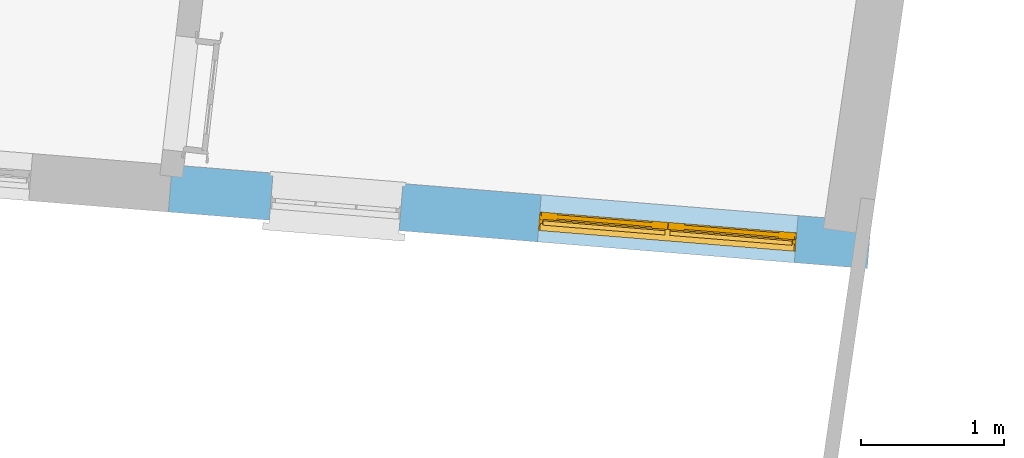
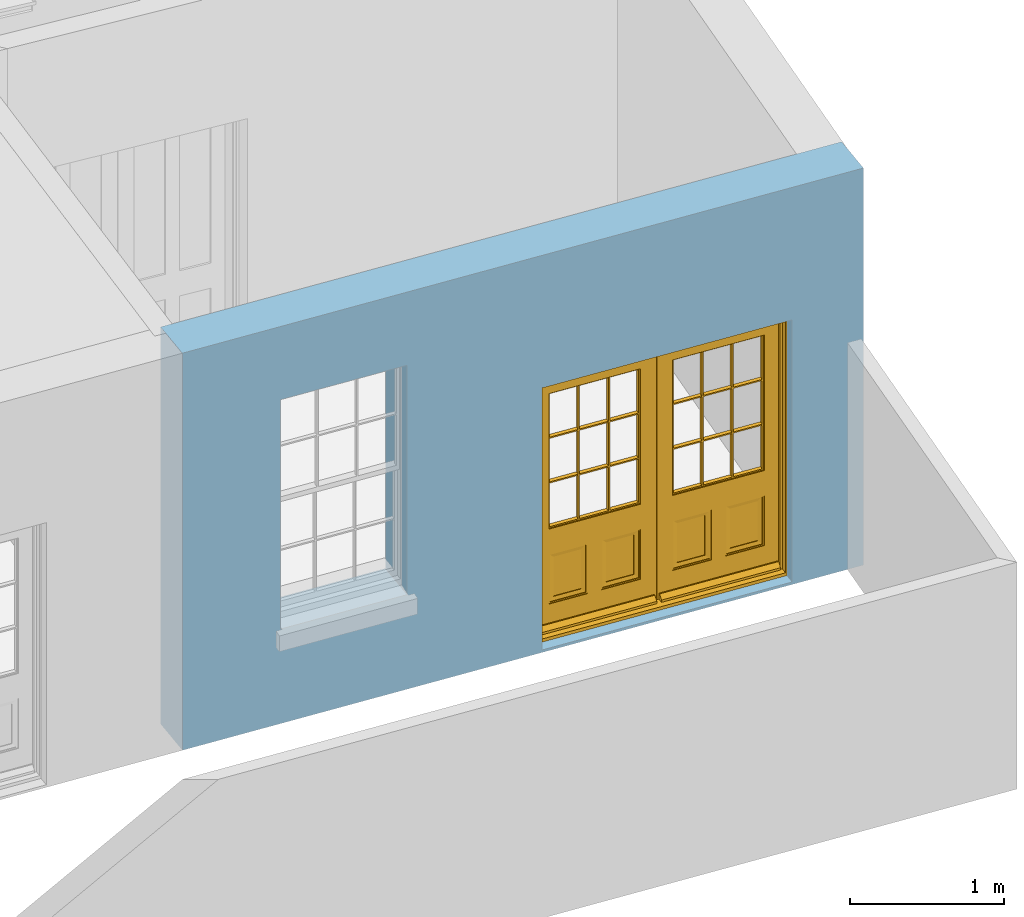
# One storey, part 3 of 8: 1 door, 2 openings, plus 1 element that does not belong to this part.
"""IFC4 building model written with IfcOpenShell, lengths in metres."""

from ifc_helpers import new_model, si_unit, frame, origin, origin_with_axes, place, context, subcontext, project, spatial, polyline, outline, extrude, faceted_brep, source, transform, mapped, material, layer, layer_set, layer_usage, type_object, type_shapes, element, fill, save


model = new_model("IFC4")

# Units and contexts
model_context = context("Model", 3, world=origin_with_axes())
body_context = subcontext(model_context, "Body", "Model", "MODEL_VIEW")
ifc_project = project(units=[si_unit("PLANEANGLEUNIT", "RADIAN"), si_unit("MASSUNIT", "GRAM", prefix="KILO"), si_unit("FORCEUNIT", "NEWTON", prefix="KILO"), si_unit("LENGTHUNIT", "METRE"), si_unit("AREAUNIT", "SQUARE_METRE"), si_unit("VOLUMEUNIT", "CUBIC_METRE")], contexts=[model_context, model_context])

# Sites, building, storey
site_1_placement = place(None, origin_with_axes())
site_1 = spatial("IfcSite", under=ifc_project, at=site_1_placement, Name="Tamar")
site_2_placement = place(site_1_placement, origin_with_axes())
site_2 = spatial("IfcSite", under=site_1, at=site_2_placement, Name="Site plot-31", CompositionType="ELEMENT")
building_placement = place(None, origin_with_axes())
building = spatial("IfcBuilding", under=site_2, at=building_placement, Name="Building plot-31", CompositionType="ELEMENT")
storey_placement = place(None, frame((0.0, 0.0, 25.5), z_axis=(0.0, 0.0, 1.0), x_axis=(1.0, 0.0, 0.0)))
storey = spatial("IfcBuildingStorey", under=building, at=storey_placement, Name="plot-31 0", CompositionType="ELEMENT", Elevation=25.5)

# Wall, openings, door
ifc_material = material(Name="Masonry")
ifc_layer = layer(ifc_material, 0.33, ventilated=False)
ifc_layer_set = layer_set([ifc_layer], Name="exterior_0.08_0.25")
ifc_layer_usage = layer_usage(ifc_layer_set, "AXIS2", "POSITIVE", -0.25)
wall_type = type_object("IfcWallType", Name="exterior_0.08_0.25", PredefinedType="SOLIDWALL", material=ifc_layer_set)
wall_placement = place(storey_placement, frame((295.316844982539, 257.653933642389, 0.0), z_axis=(0.0, 0.0, 1.0), x_axis=(0.99673152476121, -0.0807853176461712, 0.0)))
wall = element("IfcWall", 1, at=wall_placement, inside=storey, type_object=wall_type, material=ifc_layer_usage, Name="exterior", context=body_context, shape_type="SweptSolid", body=[
    extrude(outline(polyline([(-6.79854810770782e-15, 0.080000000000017), (-4.88957373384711e-14, -0.24999999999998), (4.8981688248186, -0.249999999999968), (4.89816882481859, 0.0800000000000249), (-6.79854810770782e-15, 0.080000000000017)])), origin_with_axes(), (0.0, 0.0, 1.0), 3.15),
])
opening_1_placement = place(wall_placement, frame((0.707042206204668, 0.0, 0.75)))
element("IfcOpeningElement", 2, at=opening_1_placement, cuts=wall, Name="My Opening", ObjectType="Opening", context=body_context, shape_type="SweptSolid", body=[
    extrude(outline(polyline([(0.0, -0.269999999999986), (0.909999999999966, -0.270000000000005), (0.909999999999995, 1.09999999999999), (2.87547763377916e-14, 1.10000000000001), (0.0, -0.269999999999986)])), origin_with_axes(), (0.0, 0.0, 1.0), 1.82),
])
opening_2_placement = place(wall_placement, frame((2.58612661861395, 0.0, 0.0199999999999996)))
opening_2 = element("IfcOpeningElement", 3, at=opening_2_placement, cuts=wall, Name="My Opening", ObjectType="Opening", context=body_context, shape_type="SweptSolid", body=[
    extrude(outline(polyline([(0.0, -0.270000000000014), (1.80000000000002, -0.269999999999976), (1.80000000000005, 1.10000000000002), (2.88657986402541e-14, 1.09999999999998), (0.0, -0.270000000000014)])), origin_with_axes(), (0.0, 0.0, 1.0), 2.08),
])
door_type = type_object("IfcDoorType", Name="door_panelled_double", OperationType="SINGLE_SWING_LEFT", PredefinedType="NOTDEFINED")
shared_shape = source(origin(), body_context, "Body", "Brep", [
    faceted_brep([(0.545, 0.195, 0.265), (0.745, 0.195, 0.265), (0.745, 0.2, 0.265), (0.545, 0.2, 0.265), (0.745, 0.2, 0.58), (0.545, 0.2, 0.58), (0.545, 0.195, 0.58), (0.515, 0.19, 0.235), (0.775, 0.19, 0.235), (0.745, 0.195, 0.58), (0.515, 0.19, 0.61), (0.515, 0.185, 0.235), (0.775, 0.185, 0.235), (0.775, 0.19, 0.61), (0.515, 0.185, 0.61), (0.785, 0.185, 0.225), (0.505, 0.185, 0.225), (0.775, 0.185, 0.61), (0.505, 0.185, 0.62), (0.785, 0.185, 0.62), (0.505, 0.18, 0.225), (0.785, 0.18, 0.225), (0.505, 0.18, 0.62), (0.785, 0.18, 0.62), (0.883, 0.18, 0.075), (0.898, 0.18, 0.075), (0.405, 0.18, 0.62), (0.405, 0.18, 0.225), (0.027, 0.18, 0.075), (0.785, 0.18, 0.82), (0.125, 0.18, 0.82), (0.405, 0.185, 0.62), (0.405, 0.185, 0.225), (0.898, 0.18, 2.068), (0.027, 0.17, 0.075), (0.883, 0.17, 0.075), (0.125, 0.18, 0.225), (0.012, 0.18, 0.075), (0.785, 0.19, 0.82), (0.125, 0.19, 0.82), (0.125, 0.18, 0.62), (0.125, 0.185, 0.62), (0.395, 0.185, 0.61), (0.395, 0.185, 0.235), (0.125, 0.185, 0.225), (0.785, 0.18, 1.895), (0.027, 0.14, 0.045), (0.883, 0.14, 0.045), (0.558333, 0.19, 0.83), (0.351667, 0.19, 0.83), (0.125, 0.18, 1.895), (0.125, 0.19, 1.895), (0.785, 0.19, 1.895), (0.012, 0.18, 2.068), (0.135, 0.185, 0.61), (0.395, 0.19, 0.61), (0.395, 0.19, 0.235), (0.135, 0.185, 0.235), (0.027, 0.14, 0.027), (0.883, 0.14, 0.027), (0.568333, 0.19, 0.83), (0.558333, 0.22, 0.83), (0.351667, 0.22, 0.83), (0.341667, 0.19, 0.83), (0.135, 0.19, 1.185), (0.135, 0.19, 1.53), (0.775, 0.19, 1.53), (0.775, 0.19, 1.185), (0.135, 0.19, 0.61), (0.365, 0.195, 0.58), (0.365, 0.195, 0.265), (0.135, 0.19, 0.235), (0.568333, 0.19, 1.175), (0.558333, 0.19, 1.175), (0.775, 0.19, 0.83), (0.558333, 0.22, 1.175), (0.785, 0.22, 0.82), (0.125, 0.22, 0.82), (0.351667, 0.22, 1.175), (0.351667, 0.19, 1.175), (0.341667, 0.19, 1.175), (0.135, 0.19, 0.83), (0.135, 0.19, 1.175), (0.135, 0.22, 1.185), (0.135, 0.22, 1.53), (0.135, 0.19, 1.54), (0.351667, 0.19, 1.885), (0.558333, 0.19, 1.885), (0.775, 0.22, 1.53), (0.775, 0.22, 1.185), (0.775, 0.19, 1.175), (0.775, 0.19, 1.54), (0.165, 0.195, 0.58), (0.365, 0.2, 0.58), (0.365, 0.2, 0.265), (0.165, 0.195, 0.265), (0.568333, 0.22, 0.83), (0.568333, 0.22, 1.175), (0.568333, 0.19, 1.185), (0.558333, 0.19, 1.185), (0.775, 0.22, 0.83), (0.785, 0.23, 0.82), (0.125, 0.23, 0.82), (0.341667, 0.22, 0.83), (0.341667, 0.22, 1.175), (0.351667, 0.19, 1.185), (0.341667, 0.19, 1.185), (0.135, 0.22, 0.83), (0.341667, 0.22, 1.185), (0.125, 0.22, 1.895), (0.341667, 0.22, 1.53), (0.341667, 0.19, 1.53), (0.135, 0.19, 1.885), (0.341667, 0.19, 1.54), (0.341667, 0.19, 1.885), (0.558333, 0.22, 1.885), (0.351667, 0.22, 1.885), (0.568333, 0.19, 1.885), (0.785, 0.22, 1.895), (0.568333, 0.22, 1.185), (0.568333, 0.19, 1.53), (0.568333, 0.22, 1.53), (0.568333, 0.19, 1.54), (0.775, 0.19, 1.885), (0.165, 0.2, 0.58), (0.165, 0.2, 0.265), (0.775, 0.22, 1.175), (0.558333, 0.19, 1.53), (0.351667, 0.22, 1.185), (0.558333, 0.22, 1.185), (0.505, 0.23, 0.62), (0.405, 0.23, 0.62), (0.125, 0.23, 1.895), (0.785, 0.23, 1.895), (0.351667, 0.19, 1.53), (0.135, 0.22, 1.175), (0.135, 0.22, 1.54), (0.341667, 0.22, 1.54), (0.135, 0.22, 1.885), (0.351667, 0.19, 1.54), (0.558333, 0.22, 1.54), (0.558333, 0.19, 1.54), (0.351667, 0.22, 1.54), (0.775, 0.22, 1.54), (0.568333, 0.22, 1.54), (0.775, 0.22, 1.885), (0.558333, 0.22, 1.53), (0.405, 0.23, 0.225), (0.505, 0.23, 0.225), (0.125, 0.23, 0.62), (0.785, 0.23, 0.62), (0.012, 0.23, 2.068), (0.898, 0.23, 2.068), (0.351667, 0.22, 1.53), (0.341667, 0.22, 1.885), (0.568333, 0.22, 1.885), (0.405, 0.225, 0.225), (0.405, 0.225, 0.62), (0.505, 0.225, 0.62), (0.505, 0.225, 0.225), (0.898, 0.23, 0.027), (0.012, 0.23, 0.027), (0.125, 0.225, 0.62), (0.785, 0.225, 0.62), (0.395, 0.225, 0.235), (0.395, 0.225, 0.61), (0.125, 0.23, 0.225), (0.125, 0.225, 0.225), (0.515, 0.225, 0.61), (0.515, 0.225, 0.235), (0.785, 0.23, 0.225), (0.785, 0.225, 0.225), (0.135, 0.225, 0.61), (0.775, 0.225, 0.61), (0.135, 0.225, 0.235), (0.395, 0.22, 0.235), (0.395, 0.22, 0.61), (0.515, 0.22, 0.61), (0.515, 0.22, 0.235), (0.775, 0.225, 0.235), (0.135, 0.22, 0.61), (0.775, 0.22, 0.61), (0.135, 0.22, 0.235), (0.365, 0.215, 0.265), (0.365, 0.215, 0.58), (0.545, 0.215, 0.58), (0.545, 0.215, 0.265), (0.775, 0.22, 0.235), (0.165, 0.215, 0.58), (0.745, 0.215, 0.58), (0.165, 0.215, 0.265), (0.365, 0.21, 0.58), (0.365, 0.21, 0.265), (0.545, 0.21, 0.58), (0.545, 0.21, 0.265), (0.745, 0.215, 0.265), (0.165, 0.21, 0.58), (0.745, 0.21, 0.58), (0.165, 0.21, 0.265), (0.745, 0.21, 0.265), (1.775, 0.178, 0.025), (0.025, 0.178, 0.025), (0.025, 0.15, 0.025), (1.775, 0.15, 0.025), (1.79, 0.23, 0.025), (0.01, 0.23, 0.025), (1.79, 0.178, 0.025), (1.8, 0.23, 0.0), (0.0, 0.23, 0.0), (0.01, 0.178, 0.025), (1.79, 0.178, 2.07), (1.79, 0.23, 2.07), (1.775, 0.178, 2.055), (1.8, 0.23, 2.08), (0.01, 0.23, 2.07), (0.0, 0.23, 2.08), (0.01, 0.178, 2.07), (0.025, 0.178, 2.055), (0.0, 0.1, 2.08), (1.8, 0.1, 2.08), (0.01, 0.1, 2.07), (1.79, 0.1, 2.07), (0.01, 0.15, 2.07), (1.79, 0.15, 2.07), (0.0, 0.1, 0.0), (1.8, 0.1, 0.0), (0.01, 0.1, 0.025), (1.79, 0.1, 0.025), (0.01, 0.15, 0.025), (0.025, 0.15, 2.055), (1.79, 0.15, 0.025), (1.775, 0.15, 2.055), (0.898, 0.18, 0.027), (0.012, 0.18, 0.027), (0.883, 0.18, 0.027), (0.027, 0.18, 0.027), (1.435, 0.195, 0.265), (1.635, 0.195, 0.265), (1.635, 0.2, 0.265), (1.435, 0.2, 0.265), (1.635, 0.2, 0.58), (1.435, 0.2, 0.58), (1.435, 0.195, 0.58), (1.405, 0.19, 0.235), (1.665, 0.19, 0.235), (1.635, 0.195, 0.58), (1.405, 0.19, 0.61), (1.405, 0.185, 0.235), (1.665, 0.185, 0.235), (1.665, 0.19, 0.61), (1.405, 0.185, 0.61), (1.675, 0.185, 0.225), (1.395, 0.185, 0.225), (1.665, 0.185, 0.61), (1.395, 0.185, 0.62), (1.675, 0.185, 0.62), (1.395, 0.18, 0.225), (1.675, 0.18, 0.225), (1.395, 0.18, 0.62), (1.675, 0.18, 0.62), (1.773, 0.18, 0.075), (1.788, 0.18, 0.075), (1.295, 0.18, 0.62), (1.295, 0.18, 0.225), (0.917, 0.18, 0.075), (1.675, 0.18, 0.82), (1.015, 0.18, 0.82), (1.295, 0.185, 0.62), (1.295, 0.185, 0.225), (1.788, 0.18, 2.068), (0.917, 0.17, 0.075), (1.773, 0.17, 0.075), (1.015, 0.18, 0.225), (0.902, 0.18, 0.075), (1.675, 0.19, 0.82), (1.015, 0.19, 0.82), (1.015, 0.18, 0.62), (1.015, 0.185, 0.62), (1.285, 0.185, 0.61), (1.285, 0.185, 0.235), (1.015, 0.185, 0.225), (1.675, 0.18, 1.895), (0.917, 0.14, 0.045), (1.773, 0.14, 0.045), (1.448333, 0.19, 0.83), (1.241667, 0.19, 0.83), (1.015, 0.18, 1.895), (1.015, 0.19, 1.895), (1.675, 0.19, 1.895), (0.902, 0.18, 2.068), (1.025, 0.185, 0.61), (1.285, 0.19, 0.61), (1.285, 0.19, 0.235), (1.025, 0.185, 0.235), (0.917, 0.14, 0.027), (1.773, 0.14, 0.027), (1.458333, 0.19, 0.83), (1.448333, 0.22, 0.83), (1.241667, 0.22, 0.83), (1.231667, 0.19, 0.83), (1.025, 0.19, 1.185), (1.025, 0.19, 1.53), (1.665, 0.19, 1.53), (1.665, 0.19, 1.185), (1.025, 0.19, 0.61), (1.255, 0.195, 0.58), (1.255, 0.195, 0.265), (1.025, 0.19, 0.235), (1.458333, 0.19, 1.175), (1.448333, 0.19, 1.175), (1.665, 0.19, 0.83), (1.448333, 0.22, 1.175), (1.675, 0.22, 0.82), (1.015, 0.22, 0.82), (1.241667, 0.22, 1.175), (1.241667, 0.19, 1.175), (1.231667, 0.19, 1.175), (1.025, 0.19, 0.83), (1.025, 0.19, 1.175), (1.025, 0.22, 1.185), (1.025, 0.22, 1.53), (1.025, 0.19, 1.54), (1.241667, 0.19, 1.885), (1.448333, 0.19, 1.885), (1.665, 0.22, 1.53), (1.665, 0.22, 1.185), (1.665, 0.19, 1.175), (1.665, 0.19, 1.54), (1.055, 0.195, 0.58), (1.255, 0.2, 0.58), (1.255, 0.2, 0.265), (1.055, 0.195, 0.265), (1.458333, 0.22, 0.83), (1.458333, 0.22, 1.175), (1.458333, 0.19, 1.185), (1.448333, 0.19, 1.185), (1.665, 0.22, 0.83), (1.675, 0.23, 0.82), (1.015, 0.23, 0.82), (1.231667, 0.22, 0.83), (1.231667, 0.22, 1.175), (1.241667, 0.19, 1.185), (1.231667, 0.19, 1.185), (1.025, 0.22, 0.83), (1.231667, 0.22, 1.185), (1.015, 0.22, 1.895), (1.231667, 0.22, 1.53), (1.231667, 0.19, 1.53), (1.025, 0.19, 1.885), (1.231667, 0.19, 1.54), (1.231667, 0.19, 1.885), (1.448333, 0.22, 1.885), (1.241667, 0.22, 1.885), (1.458333, 0.19, 1.885), (1.675, 0.22, 1.895), (1.458333, 0.22, 1.185), (1.458333, 0.19, 1.53), (1.458333, 0.22, 1.53), (1.458333, 0.19, 1.54), (1.665, 0.19, 1.885), (1.055, 0.2, 0.58), (1.055, 0.2, 0.265), (1.665, 0.22, 1.175), (1.448333, 0.19, 1.53), (1.241667, 0.22, 1.185), (1.448333, 0.22, 1.185), (1.395, 0.23, 0.62), (1.295, 0.23, 0.62), (1.015, 0.23, 1.895), (1.675, 0.23, 1.895), (1.241667, 0.19, 1.53), (1.025, 0.22, 1.175), (1.025, 0.22, 1.54), (1.231667, 0.22, 1.54), (1.025, 0.22, 1.885), (1.241667, 0.19, 1.54), (1.448333, 0.22, 1.54), (1.448333, 0.19, 1.54), (1.241667, 0.22, 1.54), (1.665, 0.22, 1.54), (1.458333, 0.22, 1.54), (1.665, 0.22, 1.885), (1.448333, 0.22, 1.53), (1.295, 0.23, 0.225), (1.395, 0.23, 0.225), (1.015, 0.23, 0.62), (1.675, 0.23, 0.62), (0.902, 0.23, 2.068), (1.788, 0.23, 2.068), (1.241667, 0.22, 1.53), (1.231667, 0.22, 1.885), (1.458333, 0.22, 1.885), (1.295, 0.225, 0.225), (1.295, 0.225, 0.62), (1.395, 0.225, 0.62), (1.395, 0.225, 0.225), (1.788, 0.23, 0.027), (0.902, 0.23, 0.027), (1.015, 0.225, 0.62), (1.675, 0.225, 0.62), (1.285, 0.225, 0.235), (1.285, 0.225, 0.61), (1.015, 0.23, 0.225), (1.015, 0.225, 0.225), (1.405, 0.225, 0.61), (1.405, 0.225, 0.235), (1.675, 0.23, 0.225), (1.675, 0.225, 0.225), (1.025, 0.225, 0.61), (1.665, 0.225, 0.61), (1.025, 0.225, 0.235), (1.285, 0.22, 0.235), (1.285, 0.22, 0.61), (1.405, 0.22, 0.61), (1.405, 0.22, 0.235), (1.665, 0.225, 0.235), (1.025, 0.22, 0.61), (1.665, 0.22, 0.61), (1.025, 0.22, 0.235), (1.255, 0.215, 0.265), (1.255, 0.215, 0.58), (1.435, 0.215, 0.58), (1.435, 0.215, 0.265), (1.665, 0.22, 0.235), (1.055, 0.215, 0.58), (1.635, 0.215, 0.58), (1.055, 0.215, 0.265), (1.255, 0.21, 0.58), (1.255, 0.21, 0.265), (1.435, 0.21, 0.58), (1.435, 0.21, 0.265), (1.635, 0.215, 0.265), (1.055, 0.21, 0.58), (1.635, 0.21, 0.58), (1.055, 0.21, 0.265), (1.635, 0.21, 0.265), (1.788, 0.18, 0.027), (0.902, 0.18, 0.027), (1.773, 0.18, 0.027), (0.917, 0.18, 0.027)], [[[0, 1, 2, 3]], [[2, 4, 5, 3]], [[0, 3, 5, 6]], [[1, 0, 7, 8]], [[9, 4, 2, 1]], [[9, 6, 5, 4]], [[0, 6, 10, 7]], [[8, 7, 11, 12]], [[8, 13, 9, 1]], [[13, 10, 6, 9]], [[7, 10, 14, 11]], [[15, 12, 11, 16]], [[12, 17, 13, 8]], [[17, 14, 10, 13]], [[18, 16, 11, 14]], [[15, 19, 17, 12]], [[15, 16, 20, 21]], [[14, 17, 19, 18]], [[16, 18, 22, 20]], [[21, 23, 19, 15]], [[24, 25, 21, 20]], [[23, 22, 18, 19]], [[20, 22, 26, 27]], [[23, 21, 25]], [[28, 24, 20, 27]], [[22, 23, 29]], [[29, 30, 26, 22]], [[27, 26, 31, 32]], [[23, 25, 33, 29]], [[34, 35, 24, 28]], [[28, 27, 36, 37]], [[38, 39, 30, 29]], [[26, 30, 40]], [[26, 40, 41, 31]], [[42, 43, 32, 31]], [[32, 44, 36, 27]], [[33, 45, 29]], [[46, 47, 35, 34]], [[36, 40, 37]], [[39, 38, 48, 49]], [[50, 30, 39, 51]], [[29, 45, 52, 38]], [[53, 37, 40, 30]], [[44, 41, 40, 36]], [[31, 41, 54, 42]], [[43, 42, 55, 56]], [[57, 44, 32, 43]], [[50, 45, 33, 53]], [[47, 46, 58, 59]], [[60, 48, 38]], [[49, 48, 61, 62]], [[49, 63, 39]], [[50, 53, 30]], [[51, 39, 64, 65]], [[45, 50, 51, 52]], [[66, 67, 38, 52]], [[57, 54, 41, 44]], [[42, 54, 68, 55]], [[56, 55, 69, 70]], [[56, 71, 57, 43]], [[60, 72, 73, 48]], [[60, 38, 74]], [[48, 73, 75, 61]], [[76, 77, 62, 61]], [[62, 78, 79, 49]], [[49, 79, 80, 63]], [[63, 81, 39]], [[82, 64, 39]], [[65, 64, 83, 84]], [[85, 51, 65]], [[52, 51, 86, 87]], [[88, 89, 67, 66]], [[90, 38, 67]], [[91, 66, 52]], [[71, 68, 54, 57]], [[55, 68, 92, 69]], [[69, 93, 94, 70]], [[70, 95, 71, 56]], [[96, 97, 72, 60]], [[73, 72, 98, 99]], [[74, 38, 90]], [[100, 96, 60, 74]], [[75, 73, 79, 78]], [[61, 75, 97, 96]], [[101, 102, 77, 76]], [[77, 103, 62]], [[96, 76, 61]], [[103, 104, 78, 62]], [[80, 79, 105, 106]], [[63, 80, 104, 103]], [[81, 63, 103, 107]], [[81, 82, 39]], [[106, 64, 82, 80]], [[106, 108, 83, 64]], [[84, 83, 77, 109]], [[110, 111, 65, 84]], [[112, 51, 85]], [[113, 85, 65, 111]], [[114, 86, 51]], [[115, 87, 86, 116]], [[117, 52, 87]], [[118, 76, 89, 88]], [[119, 98, 67, 89]], [[120, 121, 88, 66]], [[67, 98, 72, 90]], [[91, 122, 120, 66]], [[91, 52, 123]], [[95, 92, 68, 71]], [[69, 92, 124, 93]], [[94, 93, 124, 125]], [[94, 125, 95, 70]], [[72, 97, 126, 90]], [[127, 99, 98, 120]], [[99, 105, 79, 73]], [[74, 90, 126, 100]], [[96, 100, 76]], [[128, 129, 75, 78]], [[97, 75, 129, 119]], [[130, 131, 102, 101]], [[109, 77, 102, 132]], [[133, 101, 76, 118]], [[77, 107, 103]], [[78, 104, 108, 128]], [[111, 106, 105, 134]], [[104, 80, 82, 135]], [[107, 135, 82, 81]], [[110, 108, 106, 111]], [[104, 135, 83, 108]], [[83, 135, 77]], [[136, 84, 109]], [[110, 84, 136, 137]], [[114, 51, 112]], [[85, 136, 138, 112]], [[113, 137, 136, 85]], [[111, 134, 139, 113]], [[86, 114, 113, 139]], [[140, 141, 87, 115]], [[139, 142, 116, 86]], [[109, 118, 115, 116]], [[117, 123, 52]], [[117, 87, 141, 122]], [[126, 89, 76]], [[143, 118, 88]], [[120, 98, 119, 121]], [[119, 89, 126, 97]], [[144, 143, 88, 121]], [[144, 122, 91, 143]], [[127, 120, 122, 141]], [[143, 91, 123, 145]], [[124, 92, 95, 125]], [[146, 129, 99, 127]], [[99, 129, 128, 105]], [[100, 126, 76]], [[121, 119, 129, 146]], [[147, 131, 130, 148]], [[131, 149, 102]], [[130, 101, 150]], [[102, 151, 132]], [[118, 109, 132, 133]], [[101, 133, 152]], [[107, 77, 135]], [[153, 128, 108, 110]], [[134, 105, 128, 153]], [[109, 138, 136]], [[153, 110, 137, 142]], [[154, 114, 112, 138]], [[137, 113, 114, 154]], [[141, 139, 134, 127]], [[141, 140, 142, 139]], [[144, 140, 115, 155]], [[142, 137, 154, 116]], [[155, 115, 118]], [[116, 154, 109]], [[117, 155, 145, 123]], [[122, 144, 155, 117]], [[143, 145, 118]], [[121, 146, 140, 144]], [[146, 127, 134, 153]], [[156, 157, 131, 147]], [[148, 130, 158, 159]], [[148, 160, 161, 147]], [[157, 162, 149, 131]], [[161, 151, 102, 149]], [[101, 152, 160, 150]], [[163, 158, 130, 150]], [[151, 152, 133, 132]], [[154, 138, 109]], [[142, 140, 146, 153]], [[145, 155, 118]], [[157, 156, 164, 165]], [[147, 166, 167, 156]], [[168, 169, 159, 158]], [[170, 148, 159, 171]], [[148, 170, 160]], [[166, 147, 161]], [[172, 162, 157, 165]], [[166, 149, 162, 167]], [[166, 161, 149]], [[150, 160, 170]], [[163, 173, 168, 158]], [[171, 163, 150, 170]], [[174, 164, 156, 167]], [[175, 176, 165, 164]], [[169, 168, 177, 178]], [[171, 159, 169, 179]], [[167, 162, 172, 174]], [[176, 180, 172, 165]], [[179, 173, 163, 171]], [[181, 177, 168, 173]], [[164, 174, 182, 175]], [[183, 184, 176, 175]], [[178, 177, 185, 186]], [[179, 169, 178, 187]], [[174, 172, 180, 182]], [[184, 188, 180, 176]], [[187, 181, 173, 179]], [[189, 185, 177, 181]], [[175, 182, 190, 183]], [[191, 184, 183, 192]], [[185, 193, 194, 186]], [[187, 178, 186, 195]], [[182, 180, 188, 190]], [[191, 196, 188, 184]], [[195, 189, 181, 187]], [[197, 193, 185, 189]], [[183, 190, 198, 192]], [[198, 196, 191, 192]], [[194, 193, 197, 199]], [[195, 186, 194, 199]], [[188, 196, 198, 190]], [[197, 189, 195, 199]], [[200, 201, 202, 203]], [[201, 200, 204, 205]], [[206, 204, 200]], [[204, 207, 208, 205]], [[209, 201, 205]], [[210, 211, 204, 206]], [[206, 200, 212, 210]], [[211, 213, 207, 204]], [[214, 205, 208, 215]], [[216, 217, 201, 209]], [[205, 214, 216, 209]], [[216, 214, 211, 210]], [[210, 212, 217, 216]], [[214, 215, 213, 211]], [[218, 219, 213, 215]], [[219, 218, 220, 221]], [[221, 220, 222, 223]], [[215, 208, 224, 218]], [[225, 224, 208, 207]], [[224, 226, 220, 218]], [[224, 225, 227, 226]], [[219, 225, 207, 213]], [[228, 222, 220, 226]], [[219, 221, 227, 225]], [[226, 227, 203, 202]], [[202, 229, 222, 228]], [[228, 226, 202]], [[227, 221, 223, 230]], [[230, 203, 227]], [[217, 229, 202, 201]], [[231, 223, 222, 229]], [[230, 223, 231, 203]], [[231, 229, 217, 212]], [[212, 200, 203, 231]], [[33, 152, 151, 53]], [[25, 160, 152, 33]], [[161, 37, 53, 151]], [[232, 160, 25]], [[161, 233, 37]], [[160, 232, 234]], [[24, 234, 232, 25]], [[233, 161, 235]], [[37, 233, 235, 28]], [[161, 160, 234, 235]], [[35, 47, 234, 24]], [[28, 235, 46, 34]], [[58, 235, 234, 59]], [[59, 234, 47]], [[58, 46, 235]], [[236, 237, 238, 239]], [[238, 240, 241, 239]], [[236, 239, 241, 242]], [[237, 236, 243, 244]], [[245, 240, 238, 237]], [[245, 242, 241, 240]], [[236, 242, 246, 243]], [[244, 243, 247, 248]], [[244, 249, 245, 237]], [[249, 246, 242, 245]], [[243, 246, 250, 247]], [[251, 248, 247, 252]], [[248, 253, 249, 244]], [[253, 250, 246, 249]], [[254, 252, 247, 250]], [[251, 255, 253, 248]], [[251, 252, 256, 257]], [[250, 253, 255, 254]], [[252, 254, 258, 256]], [[257, 259, 255, 251]], [[260, 261, 257, 256]], [[259, 258, 254, 255]], [[256, 258, 262, 263]], [[259, 257, 261]], [[264, 260, 256, 263]], [[258, 259, 265]], [[265, 266, 262, 258]], [[263, 262, 267, 268]], [[259, 261, 269, 265]], [[270, 271, 260, 264]], [[264, 263, 272, 273]], [[274, 275, 266, 265]], [[262, 266, 276]], [[262, 276, 277, 267]], [[278, 279, 268, 267]], [[268, 280, 272, 263]], [[269, 281, 265]], [[282, 283, 271, 270]], [[272, 276, 273]], [[275, 274, 284, 285]], [[286, 266, 275, 287]], [[265, 281, 288, 274]], [[289, 273, 276, 266]], [[280, 277, 276, 272]], [[267, 277, 290, 278]], [[279, 278, 291, 292]], [[293, 280, 268, 279]], [[286, 281, 269, 289]], [[283, 282, 294, 295]], [[296, 284, 274]], [[285, 284, 297, 298]], [[285, 299, 275]], [[286, 289, 266]], [[287, 275, 300, 301]], [[281, 286, 287, 288]], [[302, 303, 274, 288]], [[293, 290, 277, 280]], [[278, 290, 304, 291]], [[292, 291, 305, 306]], [[292, 307, 293, 279]], [[296, 308, 309, 284]], [[296, 274, 310]], [[284, 309, 311, 297]], [[312, 313, 298, 297]], [[298, 314, 315, 285]], [[285, 315, 316, 299]], [[299, 317, 275]], [[318, 300, 275]], [[301, 300, 319, 320]], [[321, 287, 301]], [[288, 287, 322, 323]], [[324, 325, 303, 302]], [[326, 274, 303]], [[327, 302, 288]], [[307, 304, 290, 293]], [[291, 304, 328, 305]], [[305, 329, 330, 306]], [[306, 331, 307, 292]], [[332, 333, 308, 296]], [[309, 308, 334, 335]], [[310, 274, 326]], [[336, 332, 296, 310]], [[311, 309, 315, 314]], [[297, 311, 333, 332]], [[337, 338, 313, 312]], [[313, 339, 298]], [[332, 312, 297]], [[339, 340, 314, 298]], [[316, 315, 341, 342]], [[299, 316, 340, 339]], [[317, 299, 339, 343]], [[317, 318, 275]], [[342, 300, 318, 316]], [[342, 344, 319, 300]], [[320, 319, 313, 345]], [[346, 347, 301, 320]], [[348, 287, 321]], [[349, 321, 301, 347]], [[350, 322, 287]], [[351, 323, 322, 352]], [[353, 288, 323]], [[354, 312, 325, 324]], [[355, 334, 303, 325]], [[356, 357, 324, 302]], [[303, 334, 308, 326]], [[327, 358, 356, 302]], [[327, 288, 359]], [[331, 328, 304, 307]], [[305, 328, 360, 329]], [[330, 329, 360, 361]], [[330, 361, 331, 306]], [[308, 333, 362, 326]], [[363, 335, 334, 356]], [[335, 341, 315, 309]], [[310, 326, 362, 336]], [[332, 336, 312]], [[364, 365, 311, 314]], [[333, 311, 365, 355]], [[366, 367, 338, 337]], [[345, 313, 338, 368]], [[369, 337, 312, 354]], [[313, 343, 339]], [[314, 340, 344, 364]], [[347, 342, 341, 370]], [[340, 316, 318, 371]], [[343, 371, 318, 317]], [[346, 344, 342, 347]], [[340, 371, 319, 344]], [[319, 371, 313]], [[372, 320, 345]], [[346, 320, 372, 373]], [[350, 287, 348]], [[321, 372, 374, 348]], [[349, 373, 372, 321]], [[347, 370, 375, 349]], [[322, 350, 349, 375]], [[376, 377, 323, 351]], [[375, 378, 352, 322]], [[345, 354, 351, 352]], [[353, 359, 288]], [[353, 323, 377, 358]], [[362, 325, 312]], [[379, 354, 324]], [[356, 334, 355, 357]], [[355, 325, 362, 333]], [[380, 379, 324, 357]], [[380, 358, 327, 379]], [[363, 356, 358, 377]], [[379, 327, 359, 381]], [[360, 328, 331, 361]], [[382, 365, 335, 363]], [[335, 365, 364, 341]], [[336, 362, 312]], [[357, 355, 365, 382]], [[383, 367, 366, 384]], [[367, 385, 338]], [[366, 337, 386]], [[338, 387, 368]], [[354, 345, 368, 369]], [[337, 369, 388]], [[343, 313, 371]], [[389, 364, 344, 346]], [[370, 341, 364, 389]], [[345, 374, 372]], [[389, 346, 373, 378]], [[390, 350, 348, 374]], [[373, 349, 350, 390]], [[377, 375, 370, 363]], [[377, 376, 378, 375]], [[380, 376, 351, 391]], [[378, 373, 390, 352]], [[391, 351, 354]], [[352, 390, 345]], [[353, 391, 381, 359]], [[358, 380, 391, 353]], [[379, 381, 354]], [[357, 382, 376, 380]], [[382, 363, 370, 389]], [[392, 393, 367, 383]], [[384, 366, 394, 395]], [[384, 396, 397, 383]], [[393, 398, 385, 367]], [[397, 387, 338, 385]], [[337, 388, 396, 386]], [[399, 394, 366, 386]], [[387, 388, 369, 368]], [[390, 374, 345]], [[378, 376, 382, 389]], [[381, 391, 354]], [[393, 392, 400, 401]], [[383, 402, 403, 392]], [[404, 405, 395, 394]], [[406, 384, 395, 407]], [[384, 406, 396]], [[402, 383, 397]], [[408, 398, 393, 401]], [[402, 385, 398, 403]], [[402, 397, 385]], [[386, 396, 406]], [[399, 409, 404, 394]], [[407, 399, 386, 406]], [[410, 400, 392, 403]], [[411, 412, 401, 400]], [[405, 404, 413, 414]], [[407, 395, 405, 415]], [[403, 398, 408, 410]], [[412, 416, 408, 401]], [[415, 409, 399, 407]], [[417, 413, 404, 409]], [[400, 410, 418, 411]], [[419, 420, 412, 411]], [[414, 413, 421, 422]], [[415, 405, 414, 423]], [[410, 408, 416, 418]], [[420, 424, 416, 412]], [[423, 417, 409, 415]], [[425, 421, 413, 417]], [[411, 418, 426, 419]], [[427, 420, 419, 428]], [[421, 429, 430, 422]], [[423, 414, 422, 431]], [[418, 416, 424, 426]], [[427, 432, 424, 420]], [[431, 425, 417, 423]], [[433, 429, 421, 425]], [[419, 426, 434, 428]], [[434, 432, 427, 428]], [[430, 429, 433, 435]], [[431, 422, 430, 435]], [[424, 432, 434, 426]], [[433, 425, 431, 435]], [[269, 388, 387, 289]], [[261, 396, 388, 269]], [[397, 273, 289, 387]], [[436, 396, 261]], [[397, 437, 273]], [[396, 436, 438]], [[260, 438, 436, 261]], [[437, 397, 439]], [[273, 437, 439, 264]], [[397, 396, 438, 439]], [[271, 283, 438, 260]], [[264, 439, 282, 270]], [[294, 439, 438, 295]], [[295, 438, 283]], [[294, 282, 439]]]),
])
type_shapes(door_type, [shared_shape])
door_placement = place(storey_placement, frame((297.872706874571, 257.175895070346, 0.0199999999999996), z_axis=(0.0, 0.0, 1.0), x_axis=(1.7941167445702, -0.145413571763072, 0.0)))
door = element("IfcDoor", 4, at=door_placement, inside=storey, type_object=door_type, Name="living outside door", OverallHeight=2.08, OverallWidth=1.8, context=body_context, shape_type="MappedRepresentation", body=[
    mapped(shared_shape, transform((0.0, 0.0, 0.0), scale=1.0)),
])
fill(opening_2, door)

save(model, "model.ifc")
